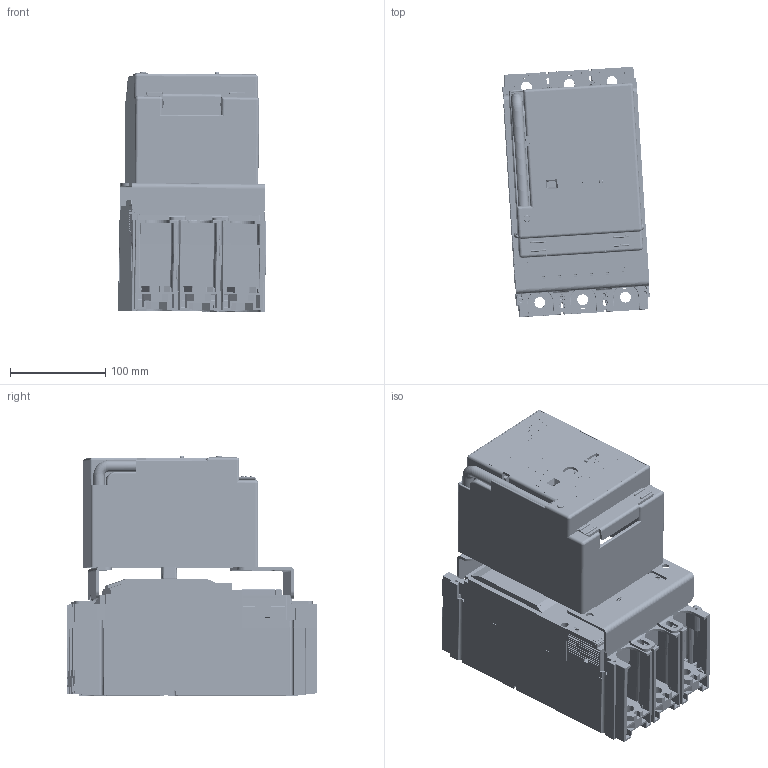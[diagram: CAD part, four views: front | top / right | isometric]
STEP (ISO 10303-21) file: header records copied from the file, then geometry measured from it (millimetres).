
FILE_DESCRIPTION(('STEP AP242'), '1');
FILE_NAME('ÂÀ11-06 ñòàö. èñï. + ïðèâîä', '', ('UNSPECIFIED'), ('UNSPECIFIED'), 'C3D Converter', 'C3D Toolkit', '');
FILE_SCHEMA(('AP242_MANAGED_MODEL_BASED_3D_ENGINEERING_MIM_LF { 1 0 10303 442 1 1 4 }'));
Length unit declared in the file: millimetre
Bounding box: 154.82 x 262.98 x 251.66 mm (x, y, z)
Volume: 892106.8 mm3; surface area: 680971.8 mm2
Topology: 3 solids, 4 shells, 10248 faces, 28455 edges, 18359 vertices
Faces by surface type: plane 5714, cylinder 3335, bspline 479, cone 271, sphere 237, torus 158, extrusion 54
Full cylindrical faces by diameter (mm): 1.5 x8, 1.55 x4, 1.7 x2, 2 x3, 2.2 x3, 2.5 x4, 2.6 x4, 3 x1, 3.1 x2, 3.2 x2, 3.5 x2, 3.6 x2, 3.9 x1, 4 x7, 4.2 x5, 4.5 x7, 4.6 x1, 4.8 x1, 5 x5, 5.2 x3, 5.3 x3, 5.6 x1, 6 x2, 6.3 x1, 7 x3, 7.3 x2, 7.7 x2, 8.1 x2, 8.5 x1, 9 x2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
Entity records: 452819 total; most frequent: CARTESIAN_POINT 111904, ORIENTED_EDGE 56448, DIRECTION 51401, EDGE_CURVE 28225, VECTOR 18787, LINE 18733, VERTEX_POINT 18349, AXIS2_PLACEMENT_3D 16307
